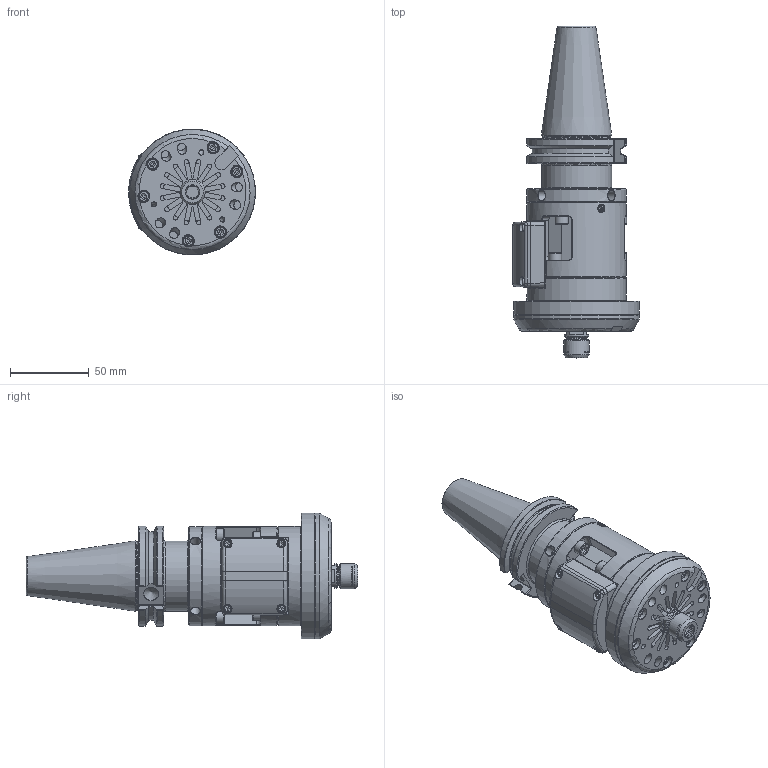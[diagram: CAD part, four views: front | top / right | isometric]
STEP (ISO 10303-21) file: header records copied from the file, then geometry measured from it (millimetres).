
FILE_DESCRIPTION (( 'STEP AP214' ), '1' );
FILE_NAME ('TJS HPC V4 CAT40.STEP', '2025-06-09T13:21:00', ( 'pc' ), ( '' ), 'SwSTEP 2.0', 'SolidWorks 2024', '' );
FILE_SCHEMA (( 'AUTOMOTIVE_DESIGN' ));
Length unit declared in the file: millimetre
Products named in the file (1): TJS HPC V4 CAT40
Bounding box: 80.35 x 210.7 x 79.82 mm (x, y, z)
Volume: 307709.3 mm3; surface area: 115469.6 mm2
Topology: 31 solids, 31 shells, 1544 faces, 3703 edges, 2275 vertices
Faces by surface type: plane 779, cylinder 368, cone 228, torus 114, bspline 55
Full cylindrical faces by diameter (mm): 2.5 x6, 3 x3, 3.3 x12, 4 x6, 4.2 x11, 4.3 x8, 4.5 x5, 5 x22, 5.5 x3, 5.8 x3, 6 x11, 6.4 x4, 6.5 x1, 7 x6, 7.4 x6, 7.5 x1, 7.65 x1, 8 x3, 8.5 x6, 9.5 x1, 10 x1, 11.21 x1, 11.3 x1, 12 x1, 12.2 x1, 12.3 x1, 13 x2, 13.2 x1, 13.45 x1, 15.5 x1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
Entity records: 53716 total; most frequent: CARTESIAN_POINT 19975, DIRECTION 6866, ORIENTED_EDGE 6438, EDGE_CURVE 3219, AXIS2_PLACEMENT_3D 2557, VERTEX_POINT 2154, EDGE_LOOP 2073, VECTOR 1752
